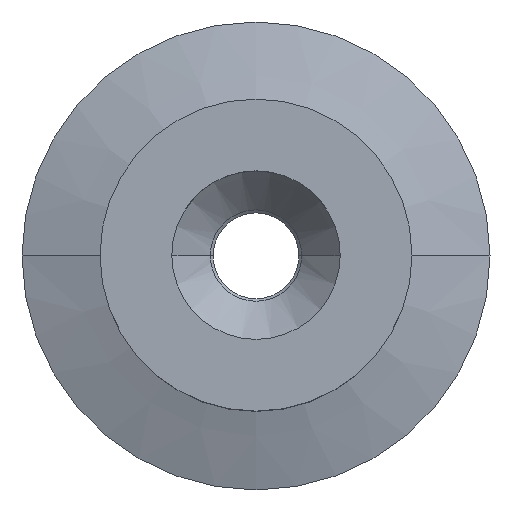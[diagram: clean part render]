
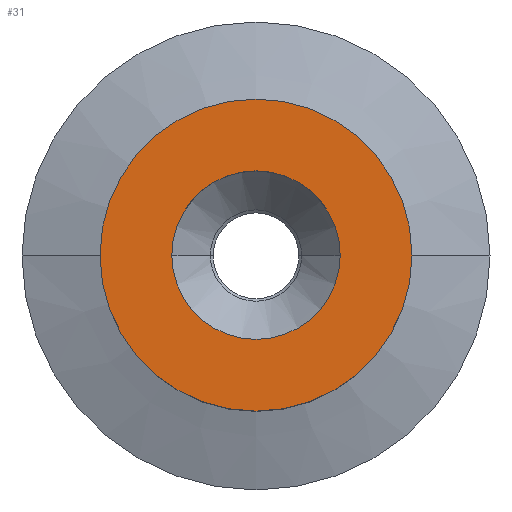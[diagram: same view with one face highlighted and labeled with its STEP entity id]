
A CAD part, top view. The second image highlights one B-rep face of the part: STEP entity #31.
In plain terms, the highlighted planar face has unit normal (0, 0, 1).
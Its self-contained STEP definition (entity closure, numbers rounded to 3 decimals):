
#19 = CARTESIAN_POINT ( 'NONE',  ( -5., 0., 0. ) ) ;
#27 = DIRECTION ( 'NONE',  ( 0., 0., -1. ) ) ;
#31 = ADVANCED_FACE ( 'NONE', ( #270, #268 ), #918, .F. ) ;
#82 = ORIENTED_EDGE ( 'NONE', *, *, #297, .T. ) ;
#116 = CIRCLE ( 'NONE', #456, 5. ) ;
#127 = DIRECTION ( 'NONE',  ( 1., 0., 0. ) ) ;
#183 = AXIS2_PLACEMENT_3D ( 'NONE', #907, #27, #890 ) ;
#190 = DIRECTION ( 'NONE',  ( 1., 0., 0. ) ) ;
#199 = EDGE_CURVE ( 'NONE', #657, #955, #461, .T. ) ;
#200 = CARTESIAN_POINT ( 'NONE',  ( -2.7, 0., 0. ) ) ;
#205 = DIRECTION ( 'NONE',  ( 0., 0., 1. ) ) ;
#217 = AXIS2_PLACEMENT_3D ( 'NONE', #219, #205, #190 ) ;
#219 = CARTESIAN_POINT ( 'NONE',  ( 0., 0., 0. ) ) ;
#228 = ORIENTED_EDGE ( 'NONE', *, *, #363, .F. ) ;
#268 = FACE_OUTER_BOUND ( 'NONE', #798, .T. ) ;
#270 = FACE_BOUND ( 'NONE', #752, .T. ) ;
#297 = EDGE_CURVE ( 'NONE', #697, #761, #899, .T. ) ;
#312 = CIRCLE ( 'NONE', #559, 2.7 ) ;
#329 = CARTESIAN_POINT ( 'NONE',  ( 0., 0., 0. ) ) ;
#358 = DIRECTION ( 'NONE',  ( 0., 0., 1. ) ) ;
#363 = EDGE_CURVE ( 'NONE', #955, #657, #312, .T. ) ;
#373 = ORIENTED_EDGE ( 'NONE', *, *, #615, .T. ) ;
#389 = DIRECTION ( 'NONE',  ( 1., 0., 0. ) ) ;
#393 = DIRECTION ( 'NONE',  ( 0., 0., 1. ) ) ;
#398 = CARTESIAN_POINT ( 'NONE',  ( 0., 0., 0. ) ) ;
#432 = DIRECTION ( 'NONE',  ( 0., 0., 1. ) ) ;
#456 = AXIS2_PLACEMENT_3D ( 'NONE', #566, #432, #484 ) ;
#461 = CIRCLE ( 'NONE', #888, 2.7 ) ;
#484 = DIRECTION ( 'NONE',  ( 1., 0., 0. ) ) ;
#488 = CARTESIAN_POINT ( 'NONE',  ( 2.7, 0., 0. ) ) ;
#559 = AXIS2_PLACEMENT_3D ( 'NONE', #329, #358, #127 ) ;
#566 = CARTESIAN_POINT ( 'NONE',  ( 0., 0., 0. ) ) ;
#615 = EDGE_CURVE ( 'NONE', #761, #697, #116, .T. ) ;
#625 = CARTESIAN_POINT ( 'NONE',  ( 5., 0., 0. ) ) ;
#657 = VERTEX_POINT ( 'NONE', #200 ) ;
#697 = VERTEX_POINT ( 'NONE', #625 ) ;
#752 = EDGE_LOOP ( 'NONE', ( #228, #786 ) ) ;
#761 = VERTEX_POINT ( 'NONE', #19 ) ;
#786 = ORIENTED_EDGE ( 'NONE', *, *, #199, .F. ) ;
#798 = EDGE_LOOP ( 'NONE', ( #82, #373 ) ) ;
#888 = AXIS2_PLACEMENT_3D ( 'NONE', #398, #393, #389 ) ;
#890 = DIRECTION ( 'NONE',  ( -1., 0., 0. ) ) ;
#899 = CIRCLE ( 'NONE', #217, 5. ) ;
#907 = CARTESIAN_POINT ( 'NONE',  ( 0., 0., 0. ) ) ;
#918 = PLANE ( 'NONE',  #183 ) ;
#955 = VERTEX_POINT ( 'NONE', #488 ) ;
